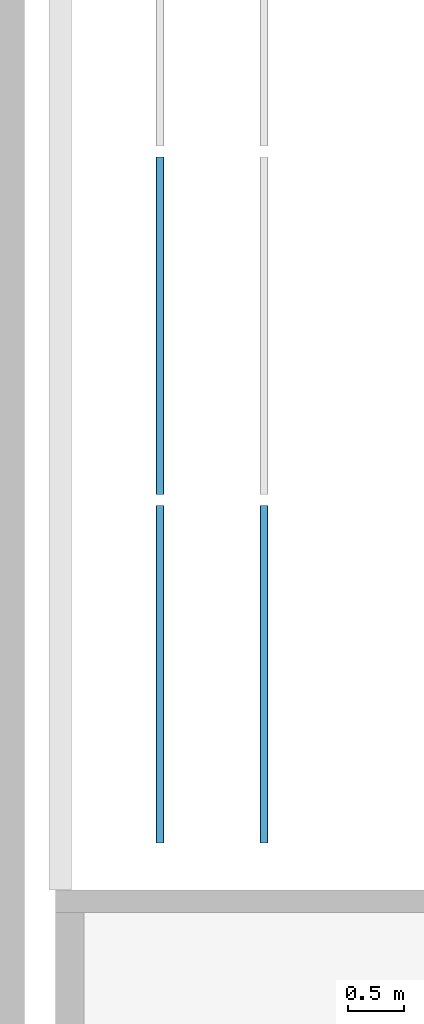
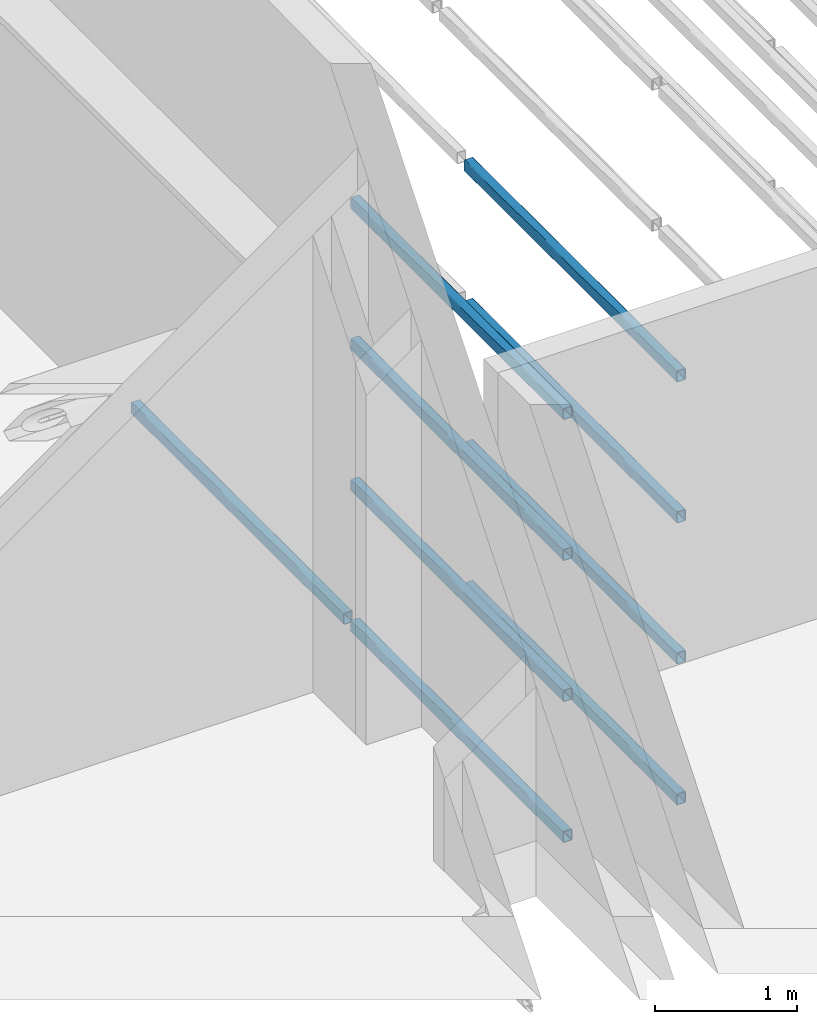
# One storey, part 8 of 290: 9 beams.
"""IFC2X3 building model written with IfcOpenShell, lengths in metres."""

from ifc_helpers import new_model, entity, si_unit, converted_unit, derived_unit, direction, frame, frame_2d, origin, place, context, subcontext, project, spatial, polyline, circle_curve, parameter, trimmed, segment, composite_curve, outline, extrude, material, type_object, element, save


model = new_model("IFC2X3")

# Units and contexts
model_context = context("Model", 3, precision=1e-05, world=origin(), true_north=direction((6.12303176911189e-17, 1.0)))
body_context = subcontext(model_context, "Body", "Model", "MODEL_VIEW")
ifc_project = project(units=[si_unit("LENGTHUNIT", "METRE"), si_unit("AREAUNIT", "SQUARE_METRE"), si_unit("VOLUMEUNIT", "CUBIC_METRE"), converted_unit("PLANEANGLEUNIT", "DEGREE", entity("IfcRatioMeasure", 0.0174532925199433), si_unit("PLANEANGLEUNIT", "RADIAN"), dimensions=[0, 0, 0, 0, 0, 0, 0]), si_unit("MASSUNIT", "GRAM", prefix="KILO"), derived_unit("MASSDENSITYUNIT", [(si_unit("MASSUNIT", "GRAM", prefix="KILO"), 1), (si_unit("LENGTHUNIT", "METRE"), -3)]), derived_unit("MOMENTOFINERTIAUNIT", [(si_unit("LENGTHUNIT", "METRE"), 4)]), si_unit("TIMEUNIT", "SECOND"), si_unit("FREQUENCYUNIT", "HERTZ"), si_unit("THERMODYNAMICTEMPERATUREUNIT", "DEGREE_CELSIUS"), derived_unit("THERMALTRANSMITTANCEUNIT", [(si_unit("MASSUNIT", "GRAM", prefix="KILO"), 1), (si_unit("THERMODYNAMICTEMPERATUREUNIT", "KELVIN"), -1), (si_unit("TIMEUNIT", "SECOND"), -3)]), derived_unit("VOLUMETRICFLOWRATEUNIT", [(si_unit("LENGTHUNIT", "METRE"), 3), (si_unit("TIMEUNIT", "SECOND"), -1)]), si_unit("ELECTRICCURRENTUNIT", "AMPERE"), si_unit("ELECTRICVOLTAGEUNIT", "VOLT"), si_unit("POWERUNIT", "WATT"), si_unit("FORCEUNIT", "NEWTON", prefix="KILO"), si_unit("ILLUMINANCEUNIT", "LUX"), si_unit("LUMINOUSFLUXUNIT", "LUMEN"), si_unit("LUMINOUSINTENSITYUNIT", "CANDELA"), derived_unit("USERDEFINED", [(si_unit("MASSUNIT", "GRAM", prefix="KILO"), -1), (si_unit("LENGTHUNIT", "METRE"), -2), (si_unit("TIMEUNIT", "SECOND"), 3), (si_unit("LUMINOUSFLUXUNIT", "LUMEN"), 1)]), derived_unit("LINEARVELOCITYUNIT", [(si_unit("LENGTHUNIT", "METRE"), 1), (si_unit("TIMEUNIT", "SECOND"), -1)]), si_unit("PRESSUREUNIT", "PASCAL"), derived_unit("USERDEFINED", [(si_unit("LENGTHUNIT", "METRE"), -2), (si_unit("MASSUNIT", "GRAM", prefix="KILO"), 1), (si_unit("TIMEUNIT", "SECOND"), -2)]), derived_unit("LINEARFORCEUNIT", [(si_unit("MASSUNIT", "GRAM", prefix="KILO"), 1), (si_unit("LENGTHUNIT", "METRE"), 1), (si_unit("TIMEUNIT", "SECOND"), -2), (si_unit("LENGTHUNIT", "METRE"), -1)]), derived_unit("PLANARFORCEUNIT", [(si_unit("MASSUNIT", "GRAM", prefix="KILO"), 1), (si_unit("LENGTHUNIT", "METRE"), 1), (si_unit("TIMEUNIT", "SECOND"), -2), (si_unit("LENGTHUNIT", "METRE"), -2)])], contexts=[model_context])

# Site, building, storey
site_placement = place(None, origin())
site = spatial("IfcSite", under=ifc_project, at=site_placement, Name="Default", CompositionType="ELEMENT")
building_placement = place(site_placement, origin())
building = spatial("IfcBuilding", under=site, at=building_placement, CompositionType="ELEMENT")
storey_placement = place(building_placement, frame((0.0, 0.0, 4.0)))
storey = spatial("IfcBuildingStorey", under=building, at=storey_placement, Name="01_OG", CompositionType="ELEMENT", Elevation=4.0)

# Beams
ifc_material = material(Name="Metall - Baustahl S235 blau")
beam_type = type_object("IfcBeamType", Name="RHS Träger (EN 10219-2):RHS 100 x 75 x 5", PredefinedType="NOTDEFINED")
beam_1_placement = place(storey_placement, frame((-206.415111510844, 24.048088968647, 0.0150000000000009), z_axis=(0.0, 0.0, 1.0), x_axis=(0.0, 1.0, 0.0)))
element("IfcBeam", 1, at=beam_1_placement, inside=storey, type_object=beam_type, material=ifc_material, Name="RHS Träger (EN 10219-2):RHS 100 x 75 x 5", ObjectType="RHS Träger (EN 10219-2):RHS 100 x 75 x 5", context=body_context, shape_type="SweptSolid", body=[
    extrude(outline(composite_curve([segment(trimmed(circle_curve(frame_2d((-0.0274999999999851, -0.0400000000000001), x_axis=(1.0, 0.0)), 0.01), [parameter(180.0)], [parameter(270.0)], True, "PARAMETER"), True, "CONTINUOUS"), segment(polyline([(-0.0274999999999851, -0.05), (0.0274999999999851, -0.05)]), True, "CONTINUOUS"), segment(trimmed(circle_curve(frame_2d((0.0274999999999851, -0.0400000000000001), x_axis=(1.0, 0.0)), 0.01), [parameter(270.0)], [parameter(5.08888749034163e-14)], True, "PARAMETER"), True, "CONTINUOUS"), segment(polyline([(0.0375000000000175, -0.0400000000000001), (0.0375000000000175, 0.0400000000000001)]), True, "CONTINUOUS"), segment(trimmed(circle_curve(frame_2d((0.0274999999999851, 0.0400000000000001), x_axis=(1.0, 0.0)), 0.01), [parameter(360.0)], [parameter(89.9999999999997)], True, "PARAMETER"), True, "CONTINUOUS"), segment(polyline([(0.0274999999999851, 0.05), (-0.0274999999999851, 0.05)]), True, "CONTINUOUS"), segment(trimmed(circle_curve(frame_2d((-0.0274999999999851, 0.0400000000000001), x_axis=(1.0, 0.0)), 0.01), [parameter(90.0000000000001)], [parameter(180.0)], True, "PARAMETER"), True, "CONTINUOUS"), segment(polyline([(-0.0374999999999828, 0.0400000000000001), (-0.0374999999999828, -0.0400000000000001)]), True, "CONTINUOUS")], self_intersect=False), holes=[composite_curve([segment(polyline([(0.0274999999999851, -0.0450000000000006), (-0.0274999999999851, -0.0450000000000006)]), True, "CONTINUOUS"), segment(trimmed(circle_curve(frame_2d((-0.0274999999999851, -0.0400000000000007), x_axis=(1.0, 0.0)), 0.005), [parameter(180.0)], [parameter(270.0)], True, "PARAMETER"), False, "CONTINUOUS"), segment(polyline([(-0.0325000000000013, -0.0400000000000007), (-0.0325000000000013, 0.039999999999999)]), True, "CONTINUOUS"), segment(trimmed(circle_curve(frame_2d((-0.0274999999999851, 0.039999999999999), x_axis=(1.0, 0.0)), 0.005), [parameter(90.0000000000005)], [parameter(180.0)], True, "PARAMETER"), False, "CONTINUOUS"), segment(polyline([(-0.0274999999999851, 0.044999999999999), (0.0274999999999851, 0.044999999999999)]), True, "CONTINUOUS"), segment(trimmed(circle_curve(frame_2d((0.0274999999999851, 0.039999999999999), x_axis=(1.0, 0.0)), 0.005), [parameter(0.0)], [parameter(90.0000000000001)], True, "PARAMETER"), False, "CONTINUOUS"), segment(polyline([(0.0325000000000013, 0.039999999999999), (0.0325000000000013, -0.0400000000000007)]), True, "CONTINUOUS"), segment(trimmed(circle_curve(frame_2d((0.0274999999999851, -0.0400000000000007), x_axis=(1.0, 0.0)), 0.005), [parameter(270.0)], [parameter(4.07110999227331e-13)], True, "PARAMETER"), False, "CONTINUOUS")], self_intersect=False)]), frame((9.99999999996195e-05, 0.0375000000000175, -0.0500000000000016), z_axis=(1.0, 0.0, 0.0), x_axis=(0.0, -1.0, 0.0)), (0.0, 0.0, 1.0), 2.9998),
])
beam_2_placement = place(storey_placement, frame((-206.415111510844, 24.048088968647, 1.23), z_axis=(0.0, 0.0, 1.0), x_axis=(0.0, 1.0, 0.0)))
element("IfcBeam", 2, at=beam_2_placement, inside=storey, type_object=beam_type, material=ifc_material, Name="RHS Träger (EN 10219-2):RHS 100 x 75 x 5", ObjectType="RHS Träger (EN 10219-2):RHS 100 x 75 x 5", context=body_context, shape_type="SweptSolid", body=[
    extrude(outline(composite_curve([segment(trimmed(circle_curve(frame_2d((-0.0274999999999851, -0.0399999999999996), x_axis=(1.0, 0.0)), 0.01), [parameter(180.0)], [parameter(270.0)], True, "PARAMETER"), True, "CONTINUOUS"), segment(polyline([(-0.0274999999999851, -0.0499999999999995), (0.0274999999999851, -0.0499999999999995)]), True, "CONTINUOUS"), segment(trimmed(circle_curve(frame_2d((0.0274999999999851, -0.0399999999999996), x_axis=(1.0, 0.0)), 0.01), [parameter(270.0)], [parameter(5.08888749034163e-14)], True, "PARAMETER"), True, "CONTINUOUS"), segment(polyline([(0.0375000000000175, -0.0399999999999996), (0.0375000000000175, 0.0399999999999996)]), True, "CONTINUOUS"), segment(trimmed(circle_curve(frame_2d((0.0274999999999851, 0.0399999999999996), x_axis=(1.0, 0.0)), 0.01), [parameter(360.0)], [parameter(89.9999999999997)], True, "PARAMETER"), True, "CONTINUOUS"), segment(polyline([(0.0274999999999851, 0.0500000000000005), (-0.0274999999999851, 0.0500000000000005)]), True, "CONTINUOUS"), segment(trimmed(circle_curve(frame_2d((-0.0274999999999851, 0.0399999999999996), x_axis=(1.0, 0.0)), 0.01), [parameter(90.0000000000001)], [parameter(180.0)], True, "PARAMETER"), True, "CONTINUOUS"), segment(polyline([(-0.0374999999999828, 0.0399999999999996), (-0.0374999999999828, -0.0399999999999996)]), True, "CONTINUOUS")], self_intersect=False), holes=[composite_curve([segment(polyline([(0.0274999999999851, -0.0450000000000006), (-0.0274999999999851, -0.0450000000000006)]), True, "CONTINUOUS"), segment(trimmed(circle_curve(frame_2d((-0.0274999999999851, -0.0400000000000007), x_axis=(1.0, 0.0)), 0.005), [parameter(180.0)], [parameter(270.0)], True, "PARAMETER"), False, "CONTINUOUS"), segment(polyline([(-0.0325000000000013, -0.0400000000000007), (-0.0325000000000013, 0.0399999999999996)]), True, "CONTINUOUS"), segment(trimmed(circle_curve(frame_2d((-0.0274999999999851, 0.0399999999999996), x_axis=(1.0, 0.0)), 0.005), [parameter(90.0000000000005)], [parameter(180.0)], True, "PARAMETER"), False, "CONTINUOUS"), segment(polyline([(-0.0274999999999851, 0.0449999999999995), (0.0274999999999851, 0.0449999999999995)]), True, "CONTINUOUS"), segment(trimmed(circle_curve(frame_2d((0.0274999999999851, 0.0399999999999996), x_axis=(1.0, 0.0)), 0.005), [parameter(0.0)], [parameter(90.0000000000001)], True, "PARAMETER"), False, "CONTINUOUS"), segment(polyline([(0.0325000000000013, 0.0399999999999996), (0.0325000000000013, -0.0400000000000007)]), True, "CONTINUOUS"), segment(trimmed(circle_curve(frame_2d((0.0274999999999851, -0.0400000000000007), x_axis=(1.0, 0.0)), 0.005), [parameter(270.0)], [parameter(4.07110999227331e-13)], True, "PARAMETER"), False, "CONTINUOUS")], self_intersect=False)]), frame((9.99999999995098e-05, 0.0375000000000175, -0.0500000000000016), z_axis=(1.0, 0.0, 0.0), x_axis=(0.0, -1.0, 0.0)), (0.0, 0.0, 1.0), 2.9998),
])
beam_3_placement = place(storey_placement, frame((-206.415111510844, 24.048088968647, 2.445), z_axis=(0.0, 0.0, 1.0), x_axis=(0.0, 1.0, 0.0)))
element("IfcBeam", 3, at=beam_3_placement, inside=storey, type_object=beam_type, material=ifc_material, Name="RHS Träger (EN 10219-2):RHS 100 x 75 x 5", ObjectType="RHS Träger (EN 10219-2):RHS 100 x 75 x 5", context=body_context, shape_type="SweptSolid", body=[
    extrude(outline(composite_curve([segment(trimmed(circle_curve(frame_2d((-0.0274999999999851, -0.0399999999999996), x_axis=(1.0, 0.0)), 0.01), [parameter(180.0)], [parameter(270.0)], True, "PARAMETER"), True, "CONTINUOUS"), segment(polyline([(-0.0274999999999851, -0.0499999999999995), (0.0274999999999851, -0.0499999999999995)]), True, "CONTINUOUS"), segment(trimmed(circle_curve(frame_2d((0.0274999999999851, -0.0399999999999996), x_axis=(1.0, 0.0)), 0.01), [parameter(270.0)], [parameter(5.08888749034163e-14)], True, "PARAMETER"), True, "CONTINUOUS"), segment(polyline([(0.0375000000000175, -0.0399999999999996), (0.0375000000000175, 0.0399999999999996)]), True, "CONTINUOUS"), segment(trimmed(circle_curve(frame_2d((0.0274999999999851, 0.0399999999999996), x_axis=(1.0, 0.0)), 0.01), [parameter(360.0)], [parameter(89.9999999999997)], True, "PARAMETER"), True, "CONTINUOUS"), segment(polyline([(0.0274999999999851, 0.0500000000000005), (-0.0274999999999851, 0.0500000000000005)]), True, "CONTINUOUS"), segment(trimmed(circle_curve(frame_2d((-0.0274999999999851, 0.0399999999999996), x_axis=(1.0, 0.0)), 0.01), [parameter(90.0000000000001)], [parameter(180.0)], True, "PARAMETER"), True, "CONTINUOUS"), segment(polyline([(-0.0374999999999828, 0.0399999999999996), (-0.0374999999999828, -0.0399999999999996)]), True, "CONTINUOUS")], self_intersect=False), holes=[composite_curve([segment(polyline([(0.0274999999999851, -0.0450000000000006), (-0.0274999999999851, -0.0450000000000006)]), True, "CONTINUOUS"), segment(trimmed(circle_curve(frame_2d((-0.0274999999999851, -0.0400000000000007), x_axis=(1.0, 0.0)), 0.005), [parameter(180.0)], [parameter(270.0)], True, "PARAMETER"), False, "CONTINUOUS"), segment(polyline([(-0.0325000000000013, -0.0400000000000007), (-0.0325000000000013, 0.0399999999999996)]), True, "CONTINUOUS"), segment(trimmed(circle_curve(frame_2d((-0.0274999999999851, 0.0399999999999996), x_axis=(1.0, 0.0)), 0.005), [parameter(90.0000000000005)], [parameter(180.0)], True, "PARAMETER"), False, "CONTINUOUS"), segment(polyline([(-0.0274999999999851, 0.0449999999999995), (0.0274999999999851, 0.0449999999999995)]), True, "CONTINUOUS"), segment(trimmed(circle_curve(frame_2d((0.0274999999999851, 0.0399999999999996), x_axis=(1.0, 0.0)), 0.005), [parameter(0.0)], [parameter(90.0000000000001)], True, "PARAMETER"), False, "CONTINUOUS"), segment(polyline([(0.0325000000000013, 0.0399999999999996), (0.0325000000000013, -0.0400000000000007)]), True, "CONTINUOUS"), segment(trimmed(circle_curve(frame_2d((0.0274999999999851, -0.0400000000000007), x_axis=(1.0, 0.0)), 0.005), [parameter(270.0)], [parameter(4.07110999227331e-13)], True, "PARAMETER"), False, "CONTINUOUS")], self_intersect=False)]), frame((9.99999999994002e-05, 0.0375000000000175, -0.0500000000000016), z_axis=(1.0, 0.0, 0.0), x_axis=(0.0, -1.0, 0.0)), (0.0, 0.0, 1.0), 2.9998),
])
beam_4_placement = place(storey_placement, frame((-205.565111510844, 24.048088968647, 0.0150000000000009), z_axis=(0.0, 0.0, 1.0), x_axis=(0.0, 1.0, 0.0)))
element("IfcBeam", 4, at=beam_4_placement, inside=storey, type_object=beam_type, material=ifc_material, Name="RHS Träger (EN 10219-2):RHS 100 x 75 x 5", ObjectType="RHS Träger (EN 10219-2):RHS 100 x 75 x 5", context=body_context, shape_type="SweptSolid", body=[
    extrude(outline(composite_curve([segment(polyline([(-0.0400000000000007, -0.0374999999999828), (0.0399999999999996, -0.0374999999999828)]), True, "CONTINUOUS"), segment(trimmed(circle_curve(frame_2d((0.0399999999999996, -0.0274999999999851), x_axis=(0.0, 1.0)), 0.01), [parameter(180.0)], [parameter(270.0)], True, "PARAMETER"), True, "CONTINUOUS"), segment(polyline([(0.0499999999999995, -0.0274999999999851), (0.0499999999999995, 0.0274999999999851)]), True, "CONTINUOUS"), segment(trimmed(circle_curve(frame_2d((0.0399999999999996, 0.0274999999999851), x_axis=(0.0, 1.0)), 0.01), [parameter(270.0)], [parameter(4.07110999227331e-13)], True, "PARAMETER"), True, "CONTINUOUS"), segment(polyline([(0.0399999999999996, 0.0375000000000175), (-0.0400000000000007, 0.0375000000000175)]), True, "CONTINUOUS"), segment(trimmed(circle_curve(frame_2d((-0.0400000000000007, 0.0274999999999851), x_axis=(0.0, 1.0)), 0.01), [parameter(360.0)], [parameter(90.0000000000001)], True, "PARAMETER"), True, "CONTINUOUS"), segment(polyline([(-0.0500000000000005, 0.0274999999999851), (-0.0500000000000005, -0.0274999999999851)]), True, "CONTINUOUS"), segment(trimmed(circle_curve(frame_2d((-0.0400000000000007, -0.0274999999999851), x_axis=(0.0, 1.0)), 0.01), [parameter(90.0000000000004)], [parameter(180.0)], True, "PARAMETER"), True, "CONTINUOUS")], self_intersect=False), holes=[composite_curve([segment(trimmed(circle_curve(frame_2d((-0.0400000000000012, 0.0274999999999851), x_axis=(0.0, 1.0)), 0.005), [parameter(360.0)], [parameter(89.9999999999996)], True, "PARAMETER"), False, "CONTINUOUS"), segment(polyline([(-0.0400000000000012, 0.0325000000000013), (0.0399999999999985, 0.0325000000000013)]), True, "CONTINUOUS"), segment(trimmed(circle_curve(frame_2d((0.0399999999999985, 0.0274999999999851), x_axis=(0.0, 1.0)), 0.005), [parameter(270.0)], [parameter(0.0)], True, "PARAMETER"), False, "CONTINUOUS"), segment(polyline([(0.0449999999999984, 0.0274999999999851), (0.0449999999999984, -0.0274999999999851)]), True, "CONTINUOUS"), segment(trimmed(circle_curve(frame_2d((0.0399999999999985, -0.0274999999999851), x_axis=(0.0, 1.0)), 0.005), [parameter(180.0)], [parameter(269.999999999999)], True, "PARAMETER"), False, "CONTINUOUS"), segment(polyline([(0.0399999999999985, -0.0325000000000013), (-0.0400000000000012, -0.0325000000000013)]), True, "CONTINUOUS"), segment(trimmed(circle_curve(frame_2d((-0.0400000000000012, -0.0274999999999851), x_axis=(0.0, 1.0)), 0.005), [parameter(90.0000000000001)], [parameter(180.0)], True, "PARAMETER"), False, "CONTINUOUS"), segment(polyline([(-0.0450000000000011, -0.0274999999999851), (-0.0450000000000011, 0.0274999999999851)]), True, "CONTINUOUS")], self_intersect=False)]), frame((9.99999999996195e-05, -0.0375000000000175, -0.0500000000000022), z_axis=(1.0, 0.0, 0.0), x_axis=(0.0, 0.0, -1.0)), (0.0, 0.0, 1.0), 2.9998),
])
beam_5_placement = place(storey_placement, frame((-205.565111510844, 24.048088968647, 1.23), z_axis=(0.0, 0.0, 1.0), x_axis=(0.0, 1.0, 0.0)))
element("IfcBeam", 5, at=beam_5_placement, inside=storey, type_object=beam_type, material=ifc_material, Name="RHS Träger (EN 10219-2):RHS 100 x 75 x 5", ObjectType="RHS Träger (EN 10219-2):RHS 100 x 75 x 5", context=body_context, shape_type="SweptSolid", body=[
    extrude(outline(composite_curve([segment(polyline([(-0.0399999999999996, -0.0374999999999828), (0.0399999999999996, -0.0374999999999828)]), True, "CONTINUOUS"), segment(trimmed(circle_curve(frame_2d((0.0399999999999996, -0.0274999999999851), x_axis=(0.0, 1.0)), 0.01), [parameter(180.0)], [parameter(270.0)], True, "PARAMETER"), True, "CONTINUOUS"), segment(polyline([(0.0500000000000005, -0.0274999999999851), (0.0500000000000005, 0.0274999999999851)]), True, "CONTINUOUS"), segment(trimmed(circle_curve(frame_2d((0.0399999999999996, 0.0274999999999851), x_axis=(0.0, 1.0)), 0.01), [parameter(270.0)], [parameter(4.07110999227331e-13)], True, "PARAMETER"), True, "CONTINUOUS"), segment(polyline([(0.0399999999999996, 0.0375000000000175), (-0.0399999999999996, 0.0375000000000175)]), True, "CONTINUOUS"), segment(trimmed(circle_curve(frame_2d((-0.0399999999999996, 0.0274999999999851), x_axis=(0.0, 1.0)), 0.01), [parameter(360.0)], [parameter(90.0000000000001)], True, "PARAMETER"), True, "CONTINUOUS"), segment(polyline([(-0.0499999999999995, 0.0274999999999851), (-0.0499999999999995, -0.0274999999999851)]), True, "CONTINUOUS"), segment(trimmed(circle_curve(frame_2d((-0.0399999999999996, -0.0274999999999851), x_axis=(0.0, 1.0)), 0.01), [parameter(90.0000000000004)], [parameter(180.0)], True, "PARAMETER"), True, "CONTINUOUS")], self_intersect=False), holes=[composite_curve([segment(trimmed(circle_curve(frame_2d((-0.0400000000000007, 0.0274999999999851), x_axis=(0.0, 1.0)), 0.005), [parameter(360.0)], [parameter(89.9999999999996)], True, "PARAMETER"), False, "CONTINUOUS"), segment(polyline([(-0.0400000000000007, 0.0325000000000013), (0.0399999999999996, 0.0325000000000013)]), True, "CONTINUOUS"), segment(trimmed(circle_curve(frame_2d((0.0399999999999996, 0.0274999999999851), x_axis=(0.0, 1.0)), 0.005), [parameter(270.0)], [parameter(0.0)], True, "PARAMETER"), False, "CONTINUOUS"), segment(polyline([(0.0449999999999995, 0.0274999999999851), (0.0449999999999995, -0.0274999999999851)]), True, "CONTINUOUS"), segment(trimmed(circle_curve(frame_2d((0.0399999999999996, -0.0274999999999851), x_axis=(0.0, 1.0)), 0.005), [parameter(180.0)], [parameter(269.999999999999)], True, "PARAMETER"), False, "CONTINUOUS"), segment(polyline([(0.0399999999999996, -0.0325000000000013), (-0.0400000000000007, -0.0325000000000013)]), True, "CONTINUOUS"), segment(trimmed(circle_curve(frame_2d((-0.0400000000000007, -0.0274999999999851), x_axis=(0.0, 1.0)), 0.005), [parameter(90.0000000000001)], [parameter(180.0)], True, "PARAMETER"), False, "CONTINUOUS"), segment(polyline([(-0.0450000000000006, -0.0274999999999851), (-0.0450000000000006, 0.0274999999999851)]), True, "CONTINUOUS")], self_intersect=False)]), frame((9.99999999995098e-05, -0.0375000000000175, -0.0500000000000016), z_axis=(1.0, 0.0, 0.0), x_axis=(0.0, 0.0, -1.0)), (0.0, 0.0, 1.0), 2.9998),
])
beam_6_placement = place(storey_placement, frame((-205.565111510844, 24.048088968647, 2.445), z_axis=(0.0, 0.0, 1.0), x_axis=(0.0, 1.0, 0.0)))
element("IfcBeam", 6, at=beam_6_placement, inside=storey, type_object=beam_type, material=ifc_material, Name="RHS Träger (EN 10219-2):RHS 100 x 75 x 5", ObjectType="RHS Träger (EN 10219-2):RHS 100 x 75 x 5", context=body_context, shape_type="SweptSolid", body=[
    extrude(outline(composite_curve([segment(polyline([(-0.0399999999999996, -0.0374999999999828), (0.0399999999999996, -0.0374999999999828)]), True, "CONTINUOUS"), segment(trimmed(circle_curve(frame_2d((0.0399999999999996, -0.0274999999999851), x_axis=(0.0, 1.0)), 0.01), [parameter(180.0)], [parameter(270.0)], True, "PARAMETER"), True, "CONTINUOUS"), segment(polyline([(0.0500000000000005, -0.0274999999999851), (0.0500000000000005, 0.0274999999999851)]), True, "CONTINUOUS"), segment(trimmed(circle_curve(frame_2d((0.0399999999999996, 0.0274999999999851), x_axis=(0.0, 1.0)), 0.01), [parameter(270.0)], [parameter(4.07110999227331e-13)], True, "PARAMETER"), True, "CONTINUOUS"), segment(polyline([(0.0399999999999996, 0.0375000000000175), (-0.0399999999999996, 0.0375000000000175)]), True, "CONTINUOUS"), segment(trimmed(circle_curve(frame_2d((-0.0399999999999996, 0.0274999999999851), x_axis=(0.0, 1.0)), 0.01), [parameter(360.0)], [parameter(90.0000000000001)], True, "PARAMETER"), True, "CONTINUOUS"), segment(polyline([(-0.0499999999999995, 0.0274999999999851), (-0.0499999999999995, -0.0274999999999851)]), True, "CONTINUOUS"), segment(trimmed(circle_curve(frame_2d((-0.0399999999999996, -0.0274999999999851), x_axis=(0.0, 1.0)), 0.01), [parameter(90.0000000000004)], [parameter(180.0)], True, "PARAMETER"), True, "CONTINUOUS")], self_intersect=False), holes=[composite_curve([segment(trimmed(circle_curve(frame_2d((-0.0400000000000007, 0.0274999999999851), x_axis=(0.0, 1.0)), 0.005), [parameter(360.0)], [parameter(89.9999999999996)], True, "PARAMETER"), False, "CONTINUOUS"), segment(polyline([(-0.0400000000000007, 0.0325000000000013), (0.0399999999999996, 0.0325000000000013)]), True, "CONTINUOUS"), segment(trimmed(circle_curve(frame_2d((0.0399999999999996, 0.0274999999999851), x_axis=(0.0, 1.0)), 0.005), [parameter(270.0)], [parameter(0.0)], True, "PARAMETER"), False, "CONTINUOUS"), segment(polyline([(0.0449999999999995, 0.0274999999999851), (0.0449999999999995, -0.0274999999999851)]), True, "CONTINUOUS"), segment(trimmed(circle_curve(frame_2d((0.0399999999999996, -0.0274999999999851), x_axis=(0.0, 1.0)), 0.005), [parameter(180.0)], [parameter(269.999999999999)], True, "PARAMETER"), False, "CONTINUOUS"), segment(polyline([(0.0399999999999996, -0.0325000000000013), (-0.0400000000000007, -0.0325000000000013)]), True, "CONTINUOUS"), segment(trimmed(circle_curve(frame_2d((-0.0400000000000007, -0.0274999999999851), x_axis=(0.0, 1.0)), 0.005), [parameter(90.0000000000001)], [parameter(180.0)], True, "PARAMETER"), False, "CONTINUOUS"), segment(polyline([(-0.0450000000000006, -0.0274999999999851), (-0.0450000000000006, 0.0274999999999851)]), True, "CONTINUOUS")], self_intersect=False)]), frame((9.99999999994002e-05, -0.0375000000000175, -0.0500000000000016), z_axis=(1.0, 0.0, 0.0), x_axis=(0.0, 0.0, -1.0)), (0.0, 0.0, 1.0), 2.9998),
])
beam_7_placement = place(storey_placement, frame((-206.415111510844, 27.148088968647, -1.2), z_axis=(0.0, 0.0, 1.0), x_axis=(0.0, 1.0, 0.0)))
element("IfcBeam", 7, at=beam_7_placement, inside=storey, type_object=beam_type, material=ifc_material, Name="RHS Träger (EN 10219-2):RHS 100 x 75 x 5", ObjectType="RHS Träger (EN 10219-2):RHS 100 x 75 x 5", context=body_context, shape_type="SweptSolid", body=[
    extrude(outline(composite_curve([segment(trimmed(circle_curve(frame_2d((-0.0274999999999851, -0.0400000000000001), x_axis=(1.0, 0.0)), 0.01), [parameter(180.0)], [parameter(270.0)], True, "PARAMETER"), True, "CONTINUOUS"), segment(polyline([(-0.0274999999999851, -0.05), (0.0274999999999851, -0.05)]), True, "CONTINUOUS"), segment(trimmed(circle_curve(frame_2d((0.0274999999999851, -0.0400000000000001), x_axis=(1.0, 0.0)), 0.01), [parameter(270.0)], [parameter(5.08888749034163e-14)], True, "PARAMETER"), True, "CONTINUOUS"), segment(polyline([(0.0375000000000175, -0.0400000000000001), (0.0375000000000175, 0.0400000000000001)]), True, "CONTINUOUS"), segment(trimmed(circle_curve(frame_2d((0.0274999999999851, 0.0400000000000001), x_axis=(1.0, 0.0)), 0.01), [parameter(360.0)], [parameter(89.9999999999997)], True, "PARAMETER"), True, "CONTINUOUS"), segment(polyline([(0.0274999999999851, 0.05), (-0.0274999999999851, 0.05)]), True, "CONTINUOUS"), segment(trimmed(circle_curve(frame_2d((-0.0274999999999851, 0.0400000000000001), x_axis=(1.0, 0.0)), 0.01), [parameter(90.0000000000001)], [parameter(180.0)], True, "PARAMETER"), True, "CONTINUOUS"), segment(polyline([(-0.0374999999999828, 0.0400000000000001), (-0.0374999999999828, -0.0400000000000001)]), True, "CONTINUOUS")], self_intersect=False), holes=[composite_curve([segment(polyline([(0.0274999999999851, -0.0450000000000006), (-0.0274999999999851, -0.0450000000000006)]), True, "CONTINUOUS"), segment(trimmed(circle_curve(frame_2d((-0.0274999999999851, -0.0400000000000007), x_axis=(1.0, 0.0)), 0.005), [parameter(180.0)], [parameter(270.0)], True, "PARAMETER"), False, "CONTINUOUS"), segment(polyline([(-0.0325000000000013, -0.0400000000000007), (-0.0325000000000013, 0.039999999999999)]), True, "CONTINUOUS"), segment(trimmed(circle_curve(frame_2d((-0.0274999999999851, 0.039999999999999), x_axis=(1.0, 0.0)), 0.005), [parameter(90.0000000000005)], [parameter(180.0)], True, "PARAMETER"), False, "CONTINUOUS"), segment(polyline([(-0.0274999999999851, 0.044999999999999), (0.0274999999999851, 0.044999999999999)]), True, "CONTINUOUS"), segment(trimmed(circle_curve(frame_2d((0.0274999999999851, 0.039999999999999), x_axis=(1.0, 0.0)), 0.005), [parameter(0.0)], [parameter(90.0000000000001)], True, "PARAMETER"), False, "CONTINUOUS"), segment(polyline([(0.0325000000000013, 0.039999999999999), (0.0325000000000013, -0.0400000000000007)]), True, "CONTINUOUS"), segment(trimmed(circle_curve(frame_2d((0.0274999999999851, -0.0400000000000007), x_axis=(1.0, 0.0)), 0.005), [parameter(270.0)], [parameter(4.07110999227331e-13)], True, "PARAMETER"), False, "CONTINUOUS")], self_intersect=False)]), frame((9.99999999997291e-05, 0.0375000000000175, -0.0500000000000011), z_axis=(1.0, 0.0, 0.0), x_axis=(0.0, -1.0, 0.0)), (0.0, 0.0, 1.0), 2.9998),
])
beam_8_placement = place(storey_placement, frame((-206.415111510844, 24.048088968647, -1.2), z_axis=(0.0, 0.0, 1.0), x_axis=(0.0, 1.0, 0.0)))
element("IfcBeam", 8, at=beam_8_placement, inside=storey, type_object=beam_type, material=ifc_material, Name="RHS Träger (EN 10219-2):RHS 100 x 75 x 5", ObjectType="RHS Träger (EN 10219-2):RHS 100 x 75 x 5", context=body_context, shape_type="SweptSolid", body=[
    extrude(outline(composite_curve([segment(trimmed(circle_curve(frame_2d((-0.0274999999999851, -0.0400000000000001), x_axis=(1.0, 0.0)), 0.01), [parameter(180.0)], [parameter(270.0)], True, "PARAMETER"), True, "CONTINUOUS"), segment(polyline([(-0.0274999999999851, -0.05), (0.0274999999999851, -0.05)]), True, "CONTINUOUS"), segment(trimmed(circle_curve(frame_2d((0.0274999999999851, -0.0400000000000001), x_axis=(1.0, 0.0)), 0.01), [parameter(270.0)], [parameter(5.08888749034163e-14)], True, "PARAMETER"), True, "CONTINUOUS"), segment(polyline([(0.0375000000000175, -0.0400000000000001), (0.0375000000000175, 0.0400000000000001)]), True, "CONTINUOUS"), segment(trimmed(circle_curve(frame_2d((0.0274999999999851, 0.0400000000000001), x_axis=(1.0, 0.0)), 0.01), [parameter(360.0)], [parameter(89.9999999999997)], True, "PARAMETER"), True, "CONTINUOUS"), segment(polyline([(0.0274999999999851, 0.05), (-0.0274999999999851, 0.05)]), True, "CONTINUOUS"), segment(trimmed(circle_curve(frame_2d((-0.0274999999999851, 0.0400000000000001), x_axis=(1.0, 0.0)), 0.01), [parameter(90.0000000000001)], [parameter(180.0)], True, "PARAMETER"), True, "CONTINUOUS"), segment(polyline([(-0.0374999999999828, 0.0400000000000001), (-0.0374999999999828, -0.0400000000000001)]), True, "CONTINUOUS")], self_intersect=False), holes=[composite_curve([segment(polyline([(0.0274999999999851, -0.0450000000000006), (-0.0274999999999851, -0.0450000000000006)]), True, "CONTINUOUS"), segment(trimmed(circle_curve(frame_2d((-0.0274999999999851, -0.0400000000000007), x_axis=(1.0, 0.0)), 0.005), [parameter(180.0)], [parameter(270.0)], True, "PARAMETER"), False, "CONTINUOUS"), segment(polyline([(-0.0325000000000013, -0.0400000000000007), (-0.0325000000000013, 0.039999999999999)]), True, "CONTINUOUS"), segment(trimmed(circle_curve(frame_2d((-0.0274999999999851, 0.039999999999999), x_axis=(1.0, 0.0)), 0.005), [parameter(90.0000000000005)], [parameter(180.0)], True, "PARAMETER"), False, "CONTINUOUS"), segment(polyline([(-0.0274999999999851, 0.044999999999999), (0.0274999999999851, 0.044999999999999)]), True, "CONTINUOUS"), segment(trimmed(circle_curve(frame_2d((0.0274999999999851, 0.039999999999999), x_axis=(1.0, 0.0)), 0.005), [parameter(0.0)], [parameter(90.0000000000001)], True, "PARAMETER"), False, "CONTINUOUS"), segment(polyline([(0.0325000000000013, 0.039999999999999), (0.0325000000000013, -0.0400000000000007)]), True, "CONTINUOUS"), segment(trimmed(circle_curve(frame_2d((0.0274999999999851, -0.0400000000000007), x_axis=(1.0, 0.0)), 0.005), [parameter(270.0)], [parameter(4.07110999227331e-13)], True, "PARAMETER"), False, "CONTINUOUS")], self_intersect=False)]), frame((9.99999999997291e-05, 0.0375000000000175, -0.0500000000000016), z_axis=(1.0, 0.0, 0.0), x_axis=(0.0, -1.0, 0.0)), (0.0, 0.0, 1.0), 2.9998),
])
beam_9_placement = place(storey_placement, frame((-205.565111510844, 24.048088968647, -1.2), z_axis=(0.0, 0.0, 1.0), x_axis=(0.0, 1.0, 0.0)))
element("IfcBeam", 9, at=beam_9_placement, inside=storey, type_object=beam_type, material=ifc_material, Name="RHS Träger (EN 10219-2):RHS 100 x 75 x 5", ObjectType="RHS Träger (EN 10219-2):RHS 100 x 75 x 5", context=body_context, shape_type="SweptSolid", body=[
    extrude(outline(composite_curve([segment(polyline([(-0.0400000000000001, -0.0374999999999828), (0.0400000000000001, -0.0374999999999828)]), True, "CONTINUOUS"), segment(trimmed(circle_curve(frame_2d((0.0400000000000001, -0.0274999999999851), x_axis=(0.0, 1.0)), 0.01), [parameter(180.0)], [parameter(270.0)], True, "PARAMETER"), True, "CONTINUOUS"), segment(polyline([(0.05, -0.0274999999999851), (0.05, 0.0274999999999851)]), True, "CONTINUOUS"), segment(trimmed(circle_curve(frame_2d((0.0400000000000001, 0.0274999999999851), x_axis=(0.0, 1.0)), 0.01), [parameter(270.0)], [parameter(4.07110999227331e-13)], True, "PARAMETER"), True, "CONTINUOUS"), segment(polyline([(0.0400000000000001, 0.0375000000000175), (-0.0400000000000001, 0.0375000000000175)]), True, "CONTINUOUS"), segment(trimmed(circle_curve(frame_2d((-0.0400000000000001, 0.0274999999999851), x_axis=(0.0, 1.0)), 0.01), [parameter(360.0)], [parameter(90.0000000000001)], True, "PARAMETER"), True, "CONTINUOUS"), segment(polyline([(-0.05, 0.0274999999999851), (-0.05, -0.0274999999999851)]), True, "CONTINUOUS"), segment(trimmed(circle_curve(frame_2d((-0.0400000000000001, -0.0274999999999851), x_axis=(0.0, 1.0)), 0.01), [parameter(90.0000000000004)], [parameter(180.0)], True, "PARAMETER"), True, "CONTINUOUS")], self_intersect=False), holes=[composite_curve([segment(trimmed(circle_curve(frame_2d((-0.0400000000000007, 0.0274999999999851), x_axis=(0.0, 1.0)), 0.005), [parameter(360.0)], [parameter(89.9999999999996)], True, "PARAMETER"), False, "CONTINUOUS"), segment(polyline([(-0.0400000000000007, 0.0325000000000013), (0.039999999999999, 0.0325000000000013)]), True, "CONTINUOUS"), segment(trimmed(circle_curve(frame_2d((0.039999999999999, 0.0274999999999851), x_axis=(0.0, 1.0)), 0.005), [parameter(270.0)], [parameter(0.0)], True, "PARAMETER"), False, "CONTINUOUS"), segment(polyline([(0.044999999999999, 0.0274999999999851), (0.044999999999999, -0.0274999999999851)]), True, "CONTINUOUS"), segment(trimmed(circle_curve(frame_2d((0.039999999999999, -0.0274999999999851), x_axis=(0.0, 1.0)), 0.005), [parameter(180.0)], [parameter(269.999999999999)], True, "PARAMETER"), False, "CONTINUOUS"), segment(polyline([(0.039999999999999, -0.0325000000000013), (-0.0400000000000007, -0.0325000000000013)]), True, "CONTINUOUS"), segment(trimmed(circle_curve(frame_2d((-0.0400000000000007, -0.0274999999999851), x_axis=(0.0, 1.0)), 0.005), [parameter(90.0000000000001)], [parameter(180.0)], True, "PARAMETER"), False, "CONTINUOUS"), segment(polyline([(-0.0450000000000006, -0.0274999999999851), (-0.0450000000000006, 0.0274999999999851)]), True, "CONTINUOUS")], self_intersect=False)]), frame((9.99999999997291e-05, -0.0375000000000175, -0.0500000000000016), z_axis=(1.0, 0.0, 0.0), x_axis=(0.0, 0.0, -1.0)), (0.0, 0.0, 1.0), 2.9998),
])

save(model, "model.ifc")
